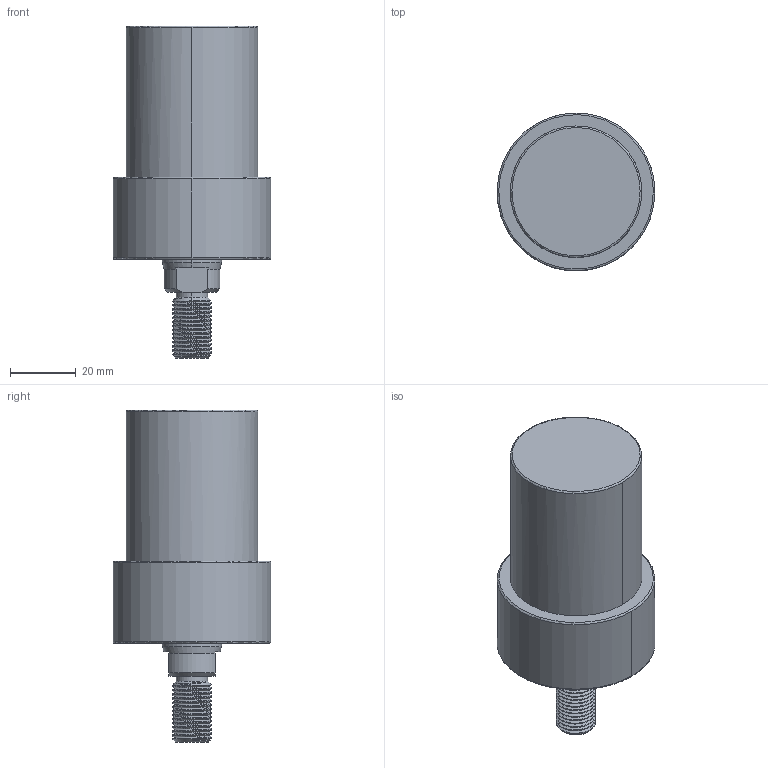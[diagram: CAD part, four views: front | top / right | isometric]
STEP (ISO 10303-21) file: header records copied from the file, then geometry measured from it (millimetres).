
FILE_DESCRIPTION((' '),'2;1');
FILE_NAME( 'TLLU-040GT-035.STEP.stp', '2025-10-24T16:37:14', (' '), ('--- Datakit www.datakit.com---'), ' Datakit CrossCadWare V2024.1 Dec 21 2023', 'Mastercam 2025', ' ');
FILE_SCHEMA(('AUTOMOTIVE_DESIGN { 1 0 10303 214 1 1 1 1 }'));
Length unit declared in the file: millimetre
Products named in the file (1): TLLU-040GT-035
Bounding box: 47.99 x 48 x 101 mm (x, y, z)
Volume: 106198.2 mm3; surface area: 15560.4 mm2
Topology: 1 solids, 1 shells, 93 faces, 330 edges, 240 vertices
Faces by surface type: cylinder 49, cone 24, plane 12, torus 6, bspline 2
Entity records: 9137 total; most frequent: CARTESIAN_POINT 6413, ORIENTED_EDGE 644, DIRECTION 495, EDGE_CURVE 322, VERTEX_POINT 240, AXIS2_PLACEMENT_3D 208, B_SPLINE_CURVE_WITH_KNOTS 127, CIRCLE 116
